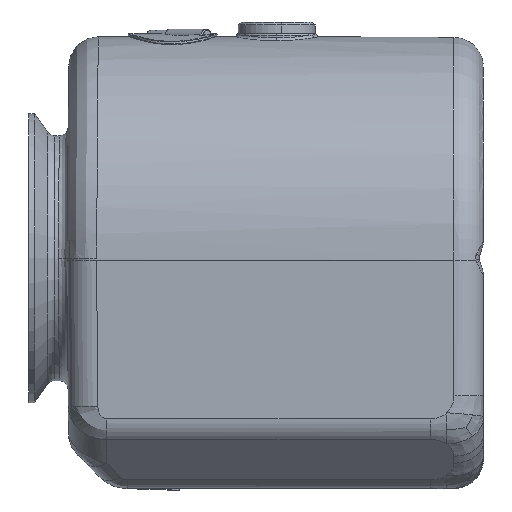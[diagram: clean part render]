
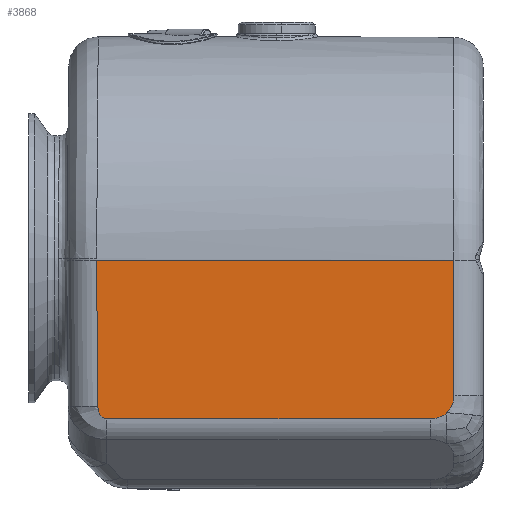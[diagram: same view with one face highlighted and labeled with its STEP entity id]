
A CAD part, left-side view. The second image highlights one B-rep face of the part: STEP entity #3868.
In plain terms, the highlighted planar face has unit normal (-1, 0, -0.009).
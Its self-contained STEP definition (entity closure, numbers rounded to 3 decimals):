
#131 = EDGE_CURVE ( 'NONE', #1655, #22430, #11928, .T. ) ;
#193 = ORIENTED_EDGE ( 'NONE', *, *, #131, .T. ) ;
#198 = B_SPLINE_CURVE_WITH_KNOTS ( 'NONE', 2,
 ( #6196, #19018, #16936, #2342, #15152 ),
 .UNSPECIFIED., .F., .F.,
 ( 3, 2, 3 ),
 ( 0., 0.5, 1. ),
 .UNSPECIFIED. ) ;
#263 = CARTESIAN_POINT ( 'NONE',  ( -74.453, -285.229, -63. ) ) ;
#521 = ORIENTED_EDGE ( 'NONE', *, *, #977, .T. ) ;
#624 = DIRECTION ( 'NONE',  ( 0., 1., 0. ) ) ;
#977 = EDGE_CURVE ( 'NONE', #5763, #13649, #19014, .T. ) ;
#1012 = ORIENTED_EDGE ( 'NONE', *, *, #19010, .T. ) ;
#1655 = VERTEX_POINT ( 'NONE', #19488 ) ;
#1792 = VECTOR ( 'NONE', #624, 1000. ) ;
#1801 = EDGE_CURVE ( 'NONE', #10306, #1655, #11110, .T. ) ;
#1861 = CARTESIAN_POINT ( 'NONE',  ( -74.528, -70.707, -54.417 ) ) ;
#2342 = CARTESIAN_POINT ( 'NONE',  ( -74.537, -186.53, -53.333 ) ) ;
#3810 = CARTESIAN_POINT ( 'NONE',  ( -74.569, -189.366, -49.752 ) ) ;
#3868 = ADVANCED_FACE ( 'NONE', ( #9364 ), #16657, .T. ) ;
#4041 = CARTESIAN_POINT ( 'NONE',  ( -74.598, -190., -46.417 ) ) ;
#5329 =( BOUNDED_CURVE ( )  B_SPLINE_CURVE ( 3, ( #19866, #20439, #1861, #7601 ),
 .UNSPECIFIED., .F., .F. ) 
 B_SPLINE_CURVE_WITH_KNOTS ( ( 4, 4 ),
 ( 1.571, 3.136 ),
 .UNSPECIFIED. ) 
 CURVE ( )  GEOMETRIC_REPRESENTATION_ITEM ( )  RATIONAL_B_SPLINE_CURVE ( ( 1., 0.806, 0.806, 1. ) ) 
 REPRESENTATION_ITEM ( '' )  );
#5763 = VERTEX_POINT ( 'NONE', #14286 ) ;
#6196 = CARTESIAN_POINT ( 'NONE',  ( -74.528, -182., -54.417 ) ) ;
#6388 = VECTOR ( 'NONE', #17091, 1000. ) ;
#6626 = ORIENTED_EDGE ( 'NONE', *, *, #14621, .T. ) ;
#6954 = VECTOR ( 'NONE', #8591, 1000. ) ;
#7567 = DIRECTION ( 'NONE',  ( -1., 0., -0.009 ) ) ;
#7601 = CARTESIAN_POINT ( 'NONE',  ( -74.528, -72.456, -54.417 ) ) ;
#7615 = CARTESIAN_POINT ( 'NONE',  ( -74.556, -188.747, -51.248 ) ) ;
#8591 = DIRECTION ( 'NONE',  ( -0.009, 0., 1. ) ) ;
#8623 = EDGE_LOOP ( 'NONE', ( #18184, #6626, #1012, #521, #23392, #11122, #193 ) ) ;
#9055 = CARTESIAN_POINT ( 'NONE',  ( -74.528, -182., -54.417 ) ) ;
#9166 = VERTEX_POINT ( 'NONE', #23600 ) ;
#9235 = EDGE_CURVE ( 'NONE', #13649, #10306, #198, .T. ) ;
#9364 = FACE_OUTER_BOUND ( 'NONE', #8623, .T. ) ;
#9650 = VERTEX_POINT ( 'NONE', #19296 ) ;
#10306 = VERTEX_POINT ( 'NONE', #20528 ) ;
#11110 = B_SPLINE_CURVE_WITH_KNOTS ( 'NONE', 2,
 ( #12769, #7615, #3810, #18650, #4041 ),
 .UNSPECIFIED., .F., .F.,
 ( 3, 2, 3 ),
 ( 0., 0.5, 1. ),
 .UNSPECIFIED. ) ;
#11122 = ORIENTED_EDGE ( 'NONE', *, *, #1801, .T. ) ;
#11820 = CARTESIAN_POINT ( 'NONE',  ( -74.437, -69.566, -64.882 ) ) ;
#11928 = LINE ( 'NONE', #12274, #6954 ) ;
#12274 = CARTESIAN_POINT ( 'NONE',  ( -74.453, -190., -63. ) ) ;
#12277 = VECTOR ( 'NONE', #17558, 1000. ) ;
#12769 = CARTESIAN_POINT ( 'NONE',  ( -74.546, -187.597, -52.329 ) ) ;
#13066 = AXIS2_PLACEMENT_3D ( 'NONE', #263, #7567, #22345 ) ;
#13649 = VERTEX_POINT ( 'NONE', #9055 ) ;
#14286 = CARTESIAN_POINT ( 'NONE',  ( -74.528, -72.456, -54.417 ) ) ;
#14621 = EDGE_CURVE ( 'NONE', #9650, #9166, #22529, .T. ) ;
#15152 = CARTESIAN_POINT ( 'NONE',  ( -74.546, -187.597, -52.329 ) ) ;
#15238 = CARTESIAN_POINT ( 'NONE',  ( -74.997, -285.229, -0.654 ) ) ;
#15452 = EDGE_CURVE ( 'NONE', #22430, #9650, #20525, .T. ) ;
#16657 = PLANE ( 'NONE',  #13066 ) ;
#16936 = CARTESIAN_POINT ( 'NONE',  ( -74.533, -185.119, -53.868 ) ) ;
#17091 = DIRECTION ( 'NONE',  ( 0.009, -0.009, -1. ) ) ;
#17191 = CARTESIAN_POINT ( 'NONE',  ( -74.528, -200., -54.417 ) ) ;
#17558 = DIRECTION ( 'NONE',  ( 0., -1., 0. ) ) ;
#18184 = ORIENTED_EDGE ( 'NONE', *, *, #15452, .T. ) ;
#18650 = CARTESIAN_POINT ( 'NONE',  ( -74.582, -190., -48.216 ) ) ;
#19010 = EDGE_CURVE ( 'NONE', #9166, #5763, #5329, .T. ) ;
#19014 = LINE ( 'NONE', #17191, #12277 ) ;
#19018 = CARTESIAN_POINT ( 'NONE',  ( -74.528, -183.67, -54.417 ) ) ;
#19296 = CARTESIAN_POINT ( 'NONE',  ( -74.997, -69.005, -0.654 ) ) ;
#19488 = CARTESIAN_POINT ( 'NONE',  ( -74.598, -190., -46.417 ) ) ;
#19866 = CARTESIAN_POINT ( 'NONE',  ( -74.565, -69.437, -50.163 ) ) ;
#20439 = CARTESIAN_POINT ( 'NONE',  ( -74.543, -69.459, -52.658 ) ) ;
#20525 = LINE ( 'NONE', #15238, #1792 ) ;
#20528 = CARTESIAN_POINT ( 'NONE',  ( -74.546, -187.597, -52.329 ) ) ;
#20667 = CARTESIAN_POINT ( 'NONE',  ( -74.997, -190., -0.654 ) ) ;
#22345 = DIRECTION ( 'NONE',  ( -0.009, 0., 1. ) ) ;
#22430 = VERTEX_POINT ( 'NONE', #20667 ) ;
#22529 = LINE ( 'NONE', #11820, #6388 ) ;
#23392 = ORIENTED_EDGE ( 'NONE', *, *, #9235, .T. ) ;
#23600 = CARTESIAN_POINT ( 'NONE',  ( -74.565, -69.437, -50.163 ) ) ;
